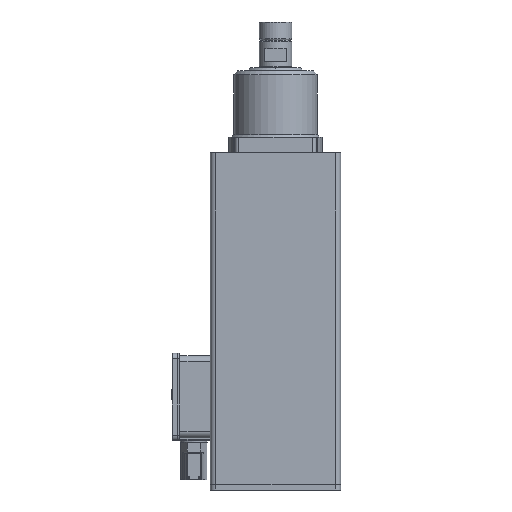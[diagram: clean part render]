
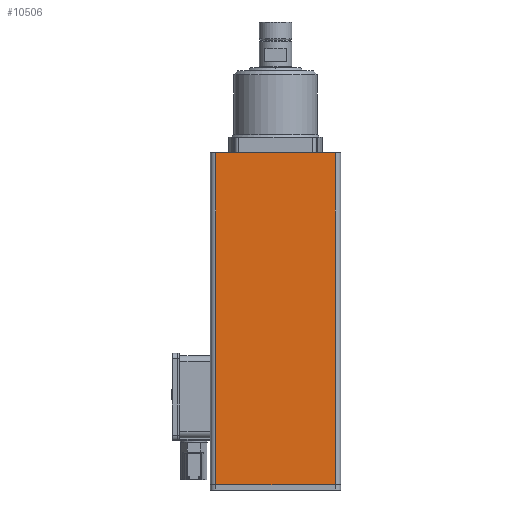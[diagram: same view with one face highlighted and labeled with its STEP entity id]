
A CAD part, left-side view. The second image highlights one B-rep face of the part: STEP entity #10506.
In plain terms, the highlighted planar face has unit normal (-1, 0, 0).
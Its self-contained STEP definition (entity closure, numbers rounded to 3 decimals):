
#124 = ORIENTED_EDGE ( 'NONE', *, *, #7491, .F. ) ;
#1026 = CARTESIAN_POINT ( 'NONE',  ( -37.5, 46., -255. ) ) ;
#1070 = VECTOR ( 'NONE', #5355, 1000. ) ;
#2344 = ORIENTED_EDGE ( 'NONE', *, *, #5923, .F. ) ;
#3388 = FACE_OUTER_BOUND ( 'NONE', #5924, .T. ) ;
#3638 = DIRECTION ( 'NONE',  ( 0., -1., 0. ) ) ;
#5330 = DIRECTION ( 'NONE',  ( -1., 0., 0. ) ) ;
#5355 = DIRECTION ( 'NONE',  ( 0., 0., 1. ) ) ;
#5923 = EDGE_CURVE ( 'NONE', #15187, #10798, #13142, .T. ) ;
#5924 = EDGE_LOOP ( 'NONE', ( #2344, #124, #15699, #15040 ) ) ;
#6401 = EDGE_CURVE ( 'NONE', #10433, #12227, #14921, .T. ) ;
#6780 = DIRECTION ( 'NONE',  ( 0., 0., 1. ) ) ;
#7040 = CARTESIAN_POINT ( 'NONE',  ( -37.5, -46., -255. ) ) ;
#7073 = CARTESIAN_POINT ( 'NONE',  ( -37.5, 46., -255. ) ) ;
#7491 = EDGE_CURVE ( 'NONE', #10433, #15187, #8753, .T. ) ;
#8485 = CARTESIAN_POINT ( 'NONE',  ( -37.5, -46., -255. ) ) ;
#8727 = PLANE ( 'NONE',  #16538 ) ;
#8753 = LINE ( 'NONE', #7073, #1070 ) ;
#9004 = CARTESIAN_POINT ( 'NONE',  ( -37.5, 46., 0. ) ) ;
#9754 = DIRECTION ( 'NONE',  ( 0., -1., 0. ) ) ;
#9924 = CARTESIAN_POINT ( 'NONE',  ( -37.5, -46., 0. ) ) ;
#9931 = VECTOR ( 'NONE', #6780, 1000. ) ;
#10182 = LINE ( 'NONE', #8485, #9931 ) ;
#10433 = VERTEX_POINT ( 'NONE', #1026 ) ;
#10506 = ADVANCED_FACE ( 'NONE', ( #3388 ), #8727, .T. ) ;
#10798 = VERTEX_POINT ( 'NONE', #9924 ) ;
#10861 = CARTESIAN_POINT ( 'NONE',  ( -37.5, -46., -255. ) ) ;
#11134 = VECTOR ( 'NONE', #9754, 1000. ) ;
#11243 = VECTOR ( 'NONE', #11538, 1000. ) ;
#11454 = CARTESIAN_POINT ( 'NONE',  ( -37.5, -46., 0. ) ) ;
#11538 = DIRECTION ( 'NONE',  ( 0., -1., 0. ) ) ;
#12227 = VERTEX_POINT ( 'NONE', #10861 ) ;
#13142 = LINE ( 'NONE', #11454, #11134 ) ;
#13221 = CARTESIAN_POINT ( 'NONE',  ( -37.5, -46., -255. ) ) ;
#14921 = LINE ( 'NONE', #13221, #11243 ) ;
#15040 = ORIENTED_EDGE ( 'NONE', *, *, #15477, .T. ) ;
#15187 = VERTEX_POINT ( 'NONE', #9004 ) ;
#15477 = EDGE_CURVE ( 'NONE', #12227, #10798, #10182, .T. ) ;
#15699 = ORIENTED_EDGE ( 'NONE', *, *, #6401, .T. ) ;
#16538 = AXIS2_PLACEMENT_3D ( 'NONE', #7040, #5330, #3638 ) ;
